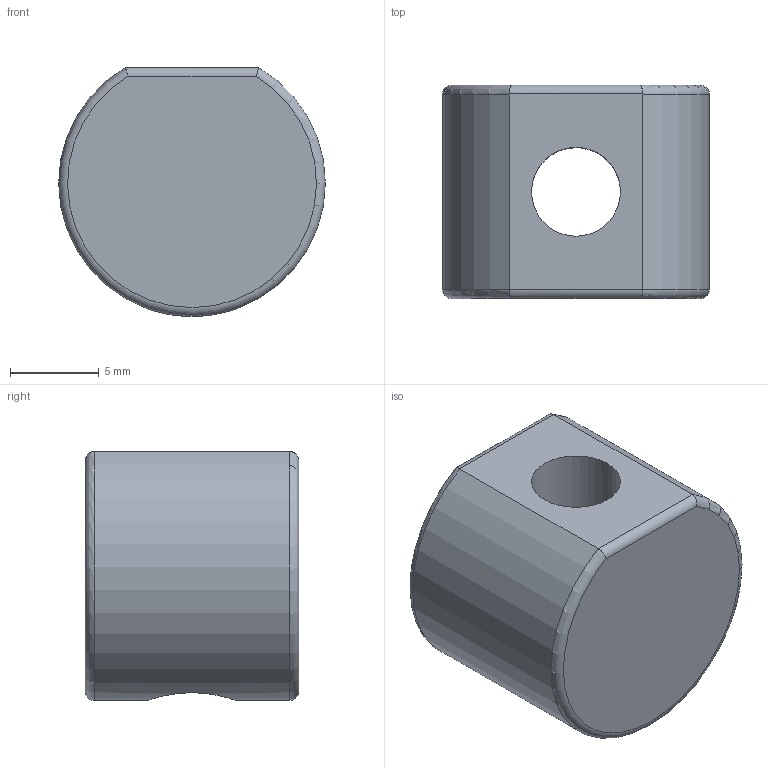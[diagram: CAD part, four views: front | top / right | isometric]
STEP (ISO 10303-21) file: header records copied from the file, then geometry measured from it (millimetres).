
FILE_DESCRIPTION (( 'STEP AP203' ), '1' );
FILE_NAME ('WSH06M6.STEP', '2024-02-17T07:03:51', ( '' ), ( '' ), 'SwSTEP 2.0', 'SolidWorks 2022', '' );
FILE_SCHEMA (( 'CONFIG_CONTROL_DESIGN' ));
Length unit declared in the file: millimetre
Products named in the file (1): WSH06M6
Bounding box: 15 x 12 x 14 mm (x, y, z)
Volume: 1782.1 mm3; surface area: 1061.3 mm2
Topology: 1 solids, 1 shells, 11 faces, 26 edges, 16 vertices
Faces by surface type: cylinder 6, plane 3, torus 2
Entity records: 463 total; most frequent: CARTESIAN_POINT 136, ORIENTED_EDGE 52, DIRECTION 50, EDGE_CURVE 26, AXIS2_PLACEMENT_3D 20, VERTEX_POINT 16, EDGE_LOOP 12, FACE_OUTER_BOUND 11
